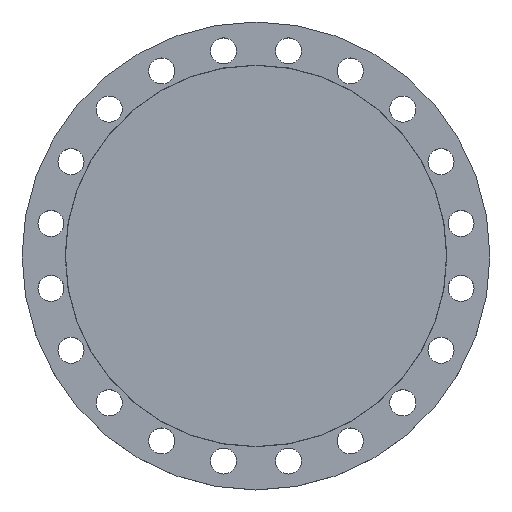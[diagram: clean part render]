
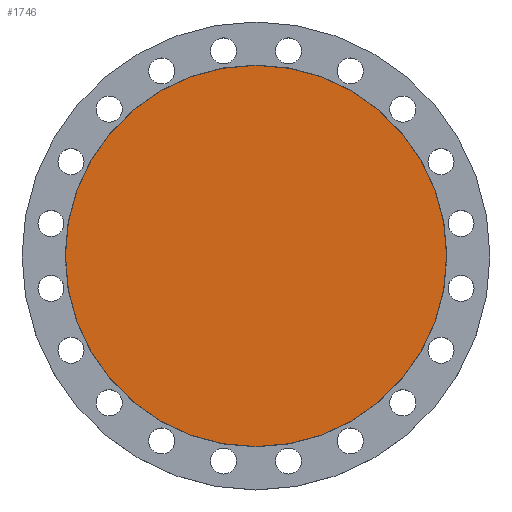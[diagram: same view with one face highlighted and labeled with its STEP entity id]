
A CAD part, top view. The second image highlights one B-rep face of the part: STEP entity #1746.
In plain terms, the highlighted planar face has unit normal (0, 0, 1).
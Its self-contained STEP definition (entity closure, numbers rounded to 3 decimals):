
#84 = VERTEX_POINT ( 'NONE', #1081 ) ;
#246 = CARTESIAN_POINT ( 'NONE',  ( 307.5, 0., 0. ) ) ;
#262 = CARTESIAN_POINT ( 'NONE',  ( 0., 0., 0. ) ) ;
#328 = DIRECTION ( 'NONE',  ( 0., 0., 1. ) ) ;
#368 = EDGE_LOOP ( 'NONE', ( #1712, #427 ) ) ;
#427 = ORIENTED_EDGE ( 'NONE', *, *, #1553, .F. ) ;
#482 = FACE_OUTER_BOUND ( 'NONE', #368, .T. ) ;
#538 = CARTESIAN_POINT ( 'NONE',  ( 0., 0., 0. ) ) ;
#589 = VERTEX_POINT ( 'NONE', #246 ) ;
#698 = AXIS2_PLACEMENT_3D ( 'NONE', #538, #1139, #1681 ) ;
#733 = CIRCLE ( 'NONE', #698, 307.5 ) ;
#801 = AXIS2_PLACEMENT_3D ( 'NONE', #1636, #328, #936 ) ;
#873 = DIRECTION ( 'NONE',  ( 0., 0., -1. ) ) ;
#935 = EDGE_CURVE ( 'NONE', #84, #589, #733, .T. ) ;
#936 = DIRECTION ( 'NONE',  ( 1., 0., 0. ) ) ;
#1078 = PLANE ( 'NONE',  #801 ) ;
#1081 = CARTESIAN_POINT ( 'NONE',  ( -307.5, 0., 0. ) ) ;
#1139 = DIRECTION ( 'NONE',  ( 0., 0., -1. ) ) ;
#1434 = DIRECTION ( 'NONE',  ( -1., 0., 0. ) ) ;
#1505 = CIRCLE ( 'NONE', #1579, 307.5 ) ;
#1553 = EDGE_CURVE ( 'NONE', #589, #84, #1505, .T. ) ;
#1579 = AXIS2_PLACEMENT_3D ( 'NONE', #262, #873, #1434 ) ;
#1636 = CARTESIAN_POINT ( 'NONE',  ( 0., 0., 0. ) ) ;
#1681 = DIRECTION ( 'NONE',  ( -1., 0., 0. ) ) ;
#1712 = ORIENTED_EDGE ( 'NONE', *, *, #935, .F. ) ;
#1746 = ADVANCED_FACE ( 'NONE', ( #482 ), #1078, .T. ) ;
